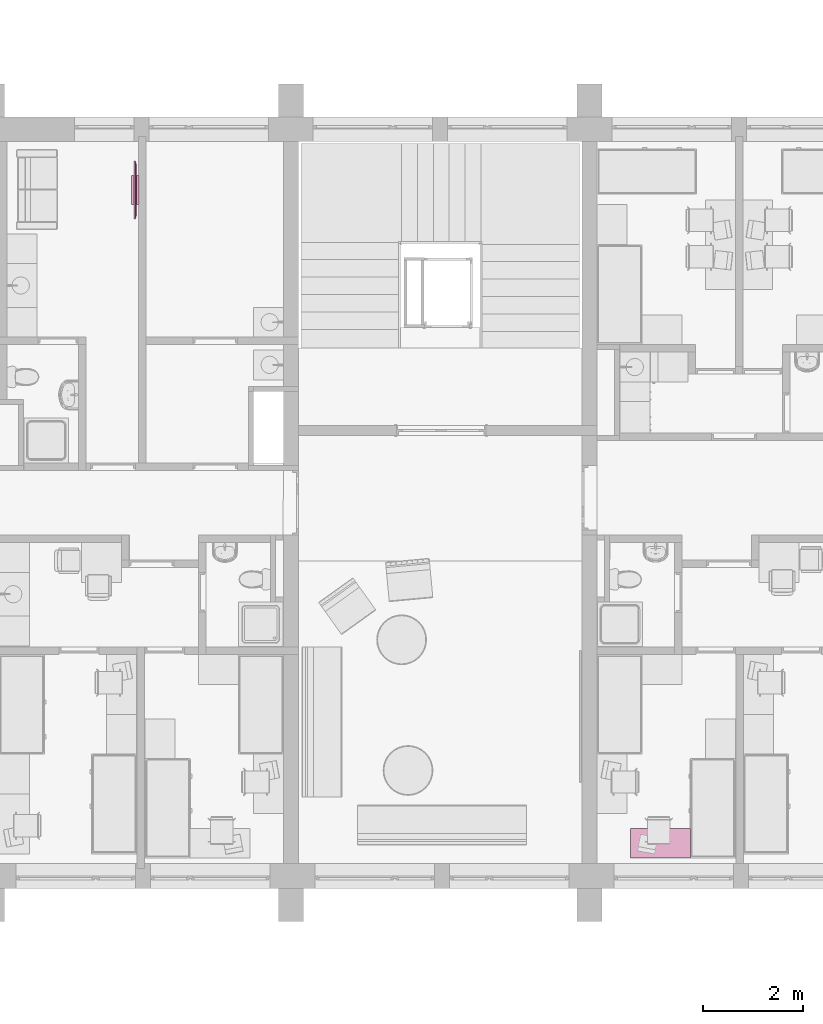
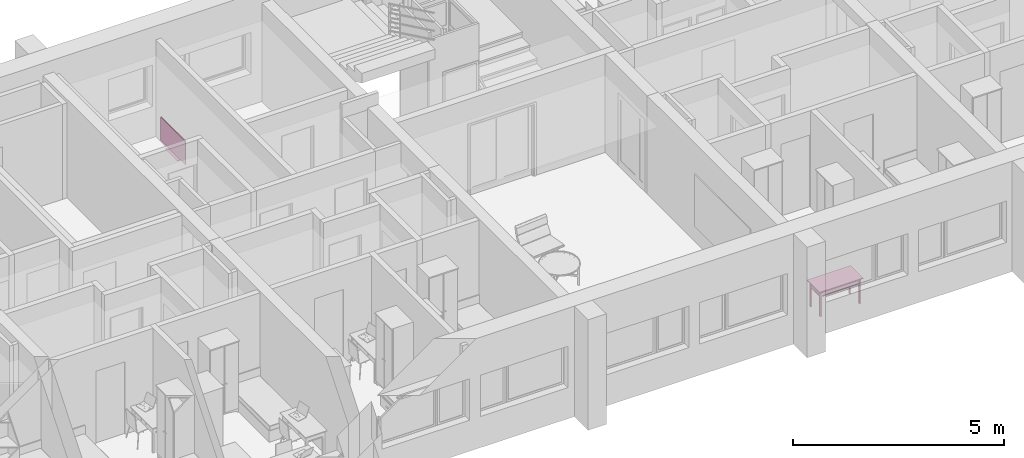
# One storey, part 111 of 165: 2 furnishings.
"""IFC2X3 building model written with IfcOpenShell, lengths in millimetres."""

from ifc_helpers import new_model, entity, si_unit, converted_unit, money_unit, direction, frame, origin_with_axes, place, context, subcontext, project, spatial, faceted_brep, source, transform, mapped, material, material_list, type_object, element, save


model = new_model("IFC2X3")

# Units and contexts
model_context = context("Model", 3, precision=1e-05, world=origin_with_axes(), true_north=direction((0.0, 1.0)))
body_context = subcontext(model_context, "Body", "Model", "MODEL_VIEW")
ifc_project = project(units=[si_unit("LENGTHUNIT", "METRE", prefix="MILLI"), si_unit("AREAUNIT", "SQUARE_METRE"), si_unit("VOLUMEUNIT", "CUBIC_METRE"), converted_unit("PLANEANGLEUNIT", "DEGREE", entity("IfcPlaneAngleMeasure", 0.0174532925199), si_unit("PLANEANGLEUNIT", "RADIAN"), dimensions=[0, 0, 0, 0, 0, 0, 0]), si_unit("SOLIDANGLEUNIT", "STERADIAN"), money_unit("USD"), converted_unit("TIMEUNIT", "Year", entity("IfcTimeMeasure", 31556926.0), si_unit("TIMEUNIT", "SECOND"), dimensions=[0, 0, 0, 0, 0, 0, 0]), si_unit("MASSUNIT", "GRAM"), si_unit("THERMODYNAMICTEMPERATUREUNIT", "DEGREE_CELSIUS"), si_unit("LUMINOUSINTENSITYUNIT", "LUMEN")], contexts=[model_context])

# Site, building, storey
site_placement = place(None, origin_with_axes())
site = spatial("IfcSite", under=ifc_project, at=site_placement, Name="Site", CompositionType="ELEMENT")
building_placement = place(site_placement, origin_with_axes())
building = spatial("IfcBuilding", under=site, at=building_placement, Name="Building", CompositionType="ELEMENT")
storey_placement = place(building_placement, frame((0.0, 0.0, 6300.0), z_axis=(0.0, 0.0, 1.0), x_axis=(1.0, 0.0, 0.0)))
storey = spatial("IfcBuildingStorey", under=building, at=storey_placement, Name="4KORRUS", CompositionType="ELEMENT", Elevation=6300.0)

# Furnishings
ifc_material = material(Name="Background")
ifc_material_list = material_list([ifc_material])
furnishing_element_type_1 = type_object("IfcFurnishingElementType", Name="Rectangular Table 01 19")
shared_shape_1 = source(origin_with_axes(), body_context, "Body", "Brep", [
    faceted_brep([(-90.0, 40.0, 0.0), (-90.0, 90.0, 0.0), (-40.0, 90.0, 0.0), (-40.0, 40.0, 0.0), (-90.0, 40.0, 725.0), (-90.0, 90.0, 725.0), (-40.0, 90.0, 725.0), (-40.0, 40.0, 725.0)], [[[0, 1, 2, 3]], [[0, 4, 5, 1]], [[1, 5, 6, 2]], [[2, 6, 7, 3]], [[3, 7, 4, 0]], [[7, 6, 5, 4]]]),
    faceted_brep([(-1160.0, 40.0, 0.0), (-1160.0, 90.0, 0.0), (-1110.0, 90.0, 0.0), (-1110.0, 40.0, 0.0), (-1160.0, 40.0, 725.0), (-1160.0, 90.0, 725.0), (-1110.0, 90.0, 725.0), (-1110.0, 40.0, 725.0)], [[[0, 1, 2, 3]], [[0, 4, 5, 1]], [[1, 5, 6, 2]], [[2, 6, 7, 3]], [[3, 7, 4, 0]], [[7, 6, 5, 4]]]),
    faceted_brep([(-90.0, 510.0, 0.0), (-90.0, 560.0, 0.0), (-40.0, 560.0, 0.0), (-40.0, 510.0, 0.0), (-90.0, 510.0, 725.0), (-90.0, 560.0, 725.0), (-40.0, 560.0, 725.0), (-40.0, 510.0, 725.0)], [[[0, 1, 2, 3]], [[0, 4, 5, 1]], [[1, 5, 6, 2]], [[2, 6, 7, 3]], [[3, 7, 4, 0]], [[7, 6, 5, 4]]]),
    faceted_brep([(-1160.0, 510.0, 0.0), (-1160.0, 560.0, 0.0), (-1110.0, 560.0, 0.0), (-1110.0, 510.0, 0.0), (-1160.0, 510.0, 725.0), (-1160.0, 560.0, 725.0), (-1110.0, 560.0, 725.0), (-1110.0, 510.0, 725.0)], [[[0, 1, 2, 3]], [[0, 4, 5, 1]], [[1, 5, 6, 2]], [[2, 6, 7, 3]], [[3, 7, 4, 0]], [[7, 6, 5, 4]]]),
    faceted_brep([(-1160.0, 40.0, 565.0), (-1160.0, 560.0, 565.0), (-40.0, 560.0, 565.0), (-40.0, 40.0, 565.0), (-1160.0, 40.0, 585.0), (-1160.0, 560.0, 585.0), (-40.0, 560.0, 585.0), (-40.0, 40.0, 585.0)], [[[0, 1, 2, 3]], [[0, 4, 5, 1]], [[1, 5, 6, 2]], [[2, 6, 7, 3]], [[3, 7, 4, 0]], [[7, 6, 5, 4]]]),
    faceted_brep([(-1110.0, 52.5, 585.0), (-1110.0, 77.5, 585.0), (-90.0, 77.5, 585.0), (-90.0, 52.5, 585.0), (-1110.0, 52.5, 745.0), (-1110.0, 77.5, 745.0), (-90.0, 77.5, 745.0), (-90.0, 52.5, 745.0)], [[[0, 1, 2, 3]], [[0, 4, 5, 1]], [[1, 5, 6, 2]], [[2, 6, 7, 3]], [[3, 7, 4, 0]], [[7, 6, 5, 4]]]),
    faceted_brep([(-77.5, 90.0, 585.0), (-77.5, 510.0, 585.0), (-52.5, 510.0, 585.0), (-52.5, 90.0, 585.0), (-77.5, 90.0, 745.0), (-77.5, 510.0, 745.0), (-52.5, 510.0, 745.0), (-52.5, 90.0, 745.0)], [[[0, 1, 2, 3]], [[0, 4, 5, 1]], [[1, 5, 6, 2]], [[2, 6, 7, 3]], [[3, 7, 4, 0]], [[7, 6, 5, 4]]]),
    faceted_brep([(-90.0, 547.5, 585.0), (-90.0, 522.5, 585.0), (-1110.0, 522.5, 585.0), (-1110.0, 547.5, 585.0), (-90.0, 547.5, 745.0), (-90.0, 522.5, 745.0), (-1110.0, 522.5, 745.0), (-1110.0, 547.5, 745.0)], [[[0, 1, 2, 3]], [[0, 4, 5, 1]], [[1, 5, 6, 2]], [[2, 6, 7, 3]], [[3, 7, 4, 0]], [[7, 6, 5, 4]]]),
    faceted_brep([(-1122.5, 510.0, 585.0), (-1122.5, 90.0, 585.0), (-1147.5, 90.0, 585.0), (-1147.5, 510.0, 585.0), (-1122.5, 510.0, 745.0), (-1122.5, 90.0, 745.0), (-1147.5, 90.0, 745.0), (-1147.5, 510.0, 745.0)], [[[0, 1, 2, 3]], [[0, 4, 5, 1]], [[1, 5, 6, 2]], [[2, 6, 7, 3]], [[3, 7, 4, 0]], [[7, 6, 5, 4]]]),
    faceted_brep([(-597.5, 40.0, 585.0), (-597.5, 60.0, 585.0), (-95.0, 60.0, 585.0), (-95.0, 40.0, 585.0), (-597.5, 40.0, 745.0), (-597.5, 60.0, 745.0), (-95.0, 60.0, 745.0), (-95.0, 40.0, 745.0)], [[[0, 1, 2, 3]], [[0, 4, 5, 1]], [[1, 5, 6, 2]], [[2, 6, 7, 3]], [[3, 7, 4, 0]], [[7, 6, 5, 4]]]),
    faceted_brep([(-1105.0, 40.0, 585.0), (-1105.0, 60.0, 585.0), (-602.5, 60.0, 585.0), (-602.5, 40.0, 585.0), (-1105.0, 40.0, 745.0), (-1105.0, 60.0, 745.0), (-602.5, 60.0, 745.0), (-602.5, 40.0, 745.0)], [[[0, 1, 2, 3]], [[0, 4, 5, 1]], [[1, 5, 6, 2]], [[2, 6, 7, 3]], [[3, 7, 4, 0]], [[7, 6, 5, 4]]]),
    faceted_brep([(-354.91, 40.0, 660.0), (-356.25, 40.0, 665.0), (-354.91, 40.0, 670.0), (-351.25, 40.0, 673.66), (-346.25, 40.0, 675.0), (-341.25, 40.0, 673.66), (-337.59, 40.0, 670.0), (-336.25, 40.0, 665.0), (-337.59, 40.0, 660.0), (-341.25, 40.0, 656.34), (-346.25, 40.0, 655.0), (-351.25, 40.0, 656.34), (-354.91, 25.0, 660.0), (-356.25, 25.0, 665.0), (-354.91, 25.0, 670.0), (-351.25, 25.0, 673.66), (-346.25, 25.0, 675.0), (-341.25, 25.0, 673.66), (-337.59, 25.0, 670.0), (-336.25, 25.0, 665.0), (-337.59, 25.0, 660.0), (-341.25, 25.0, 656.34), (-346.25, 25.0, 655.0), (-351.25, 25.0, 656.34)], [[[0, 1, 2, 3, 4, 5, 6, 7, 8, 9, 10, 11]], [[0, 12, 13, 1]], [[1, 13, 14, 2]], [[2, 14, 15, 3]], [[3, 15, 16, 4]], [[4, 16, 17, 5]], [[5, 17, 18, 6]], [[6, 18, 19, 7]], [[7, 19, 20, 8]], [[8, 20, 21, 9]], [[9, 21, 22, 10]], [[10, 22, 23, 11]], [[11, 23, 12, 0]], [[12, 23, 22, 21, 20, 19, 18, 17, 16, 15, 14, 13]]]),
    faceted_brep([(-356.25, 12.01, 665.0), (-354.91, 12.01, 660.0), (-346.25, 10.0, 665.0), (-363.571, 17.5, 665.0), (-361.25, 17.5, 656.34), (-351.25, 12.01, 656.34), (-354.91, 12.01, 670.0), (-366.25, 25.0, 665.0), (-363.571, 25.0, 655.0), (-354.91, 17.5, 650.0), (-361.25, 17.5, 673.66), (-346.25, 12.01, 655.0), (-351.25, 12.01, 673.66), (-363.571, 25.0, 675.0), (-356.25, 25.0, 682.321), (-346.25, 25.0, 685.0), (-336.25, 25.0, 682.321), (-328.929, 25.0, 675.0), (-326.25, 25.0, 665.0), (-328.929, 25.0, 655.0), (-336.25, 25.0, 647.679), (-346.25, 25.0, 645.0), (-356.25, 25.0, 647.679), (-346.25, 17.5, 647.679), (-354.91, 17.5, 680.0), (-341.25, 12.01, 656.34), (-346.25, 12.01, 675.0), (-346.25, 17.5, 682.321), (-337.59, 17.5, 680.0), (-331.25, 17.5, 673.66), (-328.929, 17.5, 665.0), (-331.25, 17.5, 656.34), (-337.59, 17.5, 650.0), (-337.59, 12.01, 660.0), (-341.25, 12.01, 673.66), (-337.59, 12.01, 670.0), (-336.25, 12.01, 665.0)], [[[0, 1, 2]], [[3, 4, 1, 0]], [[1, 5, 2]], [[6, 0, 2]], [[7, 8, 4, 3]], [[4, 9, 5, 1]], [[10, 3, 0, 6]], [[5, 11, 2]], [[12, 6, 2]], [[8, 7, 13, 14, 15, 16, 17, 18, 19, 20, 21, 22]], [[8, 22, 9, 4]], [[13, 7, 3, 10]], [[9, 23, 11, 5]], [[24, 10, 6, 12]], [[11, 25, 2]], [[26, 12, 2]], [[14, 13, 10, 24]], [[15, 14, 24, 27]], [[16, 15, 27, 28]], [[17, 16, 28, 29]], [[18, 17, 29, 30]], [[19, 18, 30, 31]], [[20, 19, 31, 32]], [[21, 20, 32, 23]], [[22, 21, 23, 9]], [[23, 32, 25, 11]], [[27, 24, 12, 26]], [[25, 33, 2]], [[34, 26, 2]], [[28, 27, 26, 34]], [[29, 28, 34, 35]], [[30, 29, 35, 36]], [[31, 30, 36, 33]], [[32, 31, 33, 25]], [[33, 36, 2]], [[35, 34, 2]], [[36, 35, 2]]]),
    faceted_brep([(-862.41, 40.0, 660.0), (-863.75, 40.0, 665.0), (-862.41, 40.0, 670.0), (-858.75, 40.0, 673.66), (-853.75, 40.0, 675.0), (-848.75, 40.0, 673.66), (-845.09, 40.0, 670.0), (-843.75, 40.0, 665.0), (-845.09, 40.0, 660.0), (-848.75, 40.0, 656.34), (-853.75, 40.0, 655.0), (-858.75, 40.0, 656.34), (-862.41, 25.0, 660.0), (-863.75, 25.0, 665.0), (-862.41, 25.0, 670.0), (-858.75, 25.0, 673.66), (-853.75, 25.0, 675.0), (-848.75, 25.0, 673.66), (-845.09, 25.0, 670.0), (-843.75, 25.0, 665.0), (-845.09, 25.0, 660.0), (-848.75, 25.0, 656.34), (-853.75, 25.0, 655.0), (-858.75, 25.0, 656.34)], [[[0, 1, 2, 3, 4, 5, 6, 7, 8, 9, 10, 11]], [[0, 12, 13, 1]], [[1, 13, 14, 2]], [[2, 14, 15, 3]], [[3, 15, 16, 4]], [[4, 16, 17, 5]], [[5, 17, 18, 6]], [[6, 18, 19, 7]], [[7, 19, 20, 8]], [[8, 20, 21, 9]], [[9, 21, 22, 10]], [[10, 22, 23, 11]], [[11, 23, 12, 0]], [[12, 23, 22, 21, 20, 19, 18, 17, 16, 15, 14, 13]]]),
    faceted_brep([(-863.75, 12.01, 665.0), (-862.41, 12.01, 660.0), (-853.75, 10.0, 665.0), (-871.071, 17.5, 665.0), (-868.75, 17.5, 656.34), (-858.75, 12.01, 656.34), (-862.41, 12.01, 670.0), (-873.75, 25.0, 665.0), (-871.071, 25.0, 655.0), (-862.41, 17.5, 650.0), (-868.75, 17.5, 673.66), (-853.75, 12.01, 655.0), (-858.75, 12.01, 673.66), (-871.071, 25.0, 675.0), (-863.75, 25.0, 682.321), (-853.75, 25.0, 685.0), (-843.75, 25.0, 682.321), (-836.429, 25.0, 675.0), (-833.75, 25.0, 665.0), (-836.429, 25.0, 655.0), (-843.75, 25.0, 647.679), (-853.75, 25.0, 645.0), (-863.75, 25.0, 647.679), (-853.75, 17.5, 647.679), (-862.41, 17.5, 680.0), (-848.75, 12.01, 656.34), (-853.75, 12.01, 675.0), (-853.75, 17.5, 682.321), (-845.09, 17.5, 680.0), (-838.75, 17.5, 673.66), (-836.429, 17.5, 665.0), (-838.75, 17.5, 656.34), (-845.09, 17.5, 650.0), (-845.09, 12.01, 660.0), (-848.75, 12.01, 673.66), (-845.09, 12.01, 670.0), (-843.75, 12.01, 665.0)], [[[0, 1, 2]], [[3, 4, 1, 0]], [[1, 5, 2]], [[6, 0, 2]], [[7, 8, 4, 3]], [[4, 9, 5, 1]], [[10, 3, 0, 6]], [[5, 11, 2]], [[12, 6, 2]], [[8, 7, 13, 14, 15, 16, 17, 18, 19, 20, 21, 22]], [[8, 22, 9, 4]], [[13, 7, 3, 10]], [[9, 23, 11, 5]], [[24, 10, 6, 12]], [[11, 25, 2]], [[26, 12, 2]], [[14, 13, 10, 24]], [[15, 14, 24, 27]], [[16, 15, 27, 28]], [[17, 16, 28, 29]], [[18, 17, 29, 30]], [[19, 18, 30, 31]], [[20, 19, 31, 32]], [[21, 20, 32, 23]], [[22, 21, 23, 9]], [[23, 32, 25, 11]], [[27, 24, 12, 26]], [[25, 33, 2]], [[34, 26, 2]], [[28, 27, 26, 34]], [[29, 28, 34, 35]], [[30, 29, 35, 36]], [[31, 30, 36, 33]], [[32, 31, 33, 25]], [[33, 36, 2]], [[35, 34, 2]], [[36, 35, 2]]]),
    faceted_brep([(-1200.0, 0.0, 725.0), (-1200.0, 600.0, 725.0), (0.0, 600.0, 725.0), (0.0, 0.0, 725.0), (-1200.0, 0.0, 750.0), (-1200.0, 600.0, 750.0), (0.0, 600.0, 750.0), (0.0, 0.0, 750.0)], [[[0, 1, 2, 3]], [[0, 4, 5, 1]], [[1, 5, 6, 2]], [[2, 6, 7, 3]], [[3, 7, 4, 0]], [[7, 6, 5, 4]]]),
])
furnishing_1_placement = place(storey_placement, frame((-5315.29670331, -18929.2398994, 0.0), z_axis=(0.0, 0.0, 1.0), x_axis=(-1.0, 0.0, 0.0)))
element("IfcFurnishingElement", 1, at=furnishing_1_placement, inside=storey, type_object=furnishing_element_type_1, material=ifc_material_list, Name="FU - 011", context=body_context, shape_type="MappedRepresentation", body=[
    mapped(shared_shape_1, transform((0.0, 0.0, 0.0))),
])
furnishing_element_type_2 = type_object("IfcFurnishingElementType", Name="Flat Panel TV 19")
shared_shape_2 = source(origin_with_axes(), body_context, "Body", "Brep", [
    faceted_brep([(-293.262, 98.316, 0.0), (-879.786, 98.316, 0.0), (-879.786, 98.316, 10.0), (-293.262, 98.316, 10.0), (-293.262, -48.316, 0.0), (-879.786, -48.316, 0.0), (-879.786, -48.316, 10.0), (-293.262, -48.316, 10.0)], [[[0, 1, 2, 3]], [[0, 4, 5, 1]], [[1, 5, 6, 2]], [[3, 2, 6, 7]], [[4, 0, 3, 7]], [[5, 4, 7, 6]]]),
    faceted_brep([(-579.077, 27.679, 66.0), (-576.949, 29.465, 66.0), (-574.778, 33.225, 66.0), (-574.024, 37.5, 66.0), (-574.778, 41.775, 66.0), (-576.949, 45.535, 66.0), (-580.274, 48.325, 66.0), (-584.353, 49.81, 66.0), (-588.695, 49.81, 66.0), (-592.774, 48.325, 66.0), (-596.1, 45.535, 66.0), (-598.27, 41.775, 66.0), (-599.024, 37.5, 66.0), (-598.27, 33.225, 66.0), (-596.1, 29.465, 66.0), (-593.972, 27.679, 66.0), (-580.274, 26.675, 62.25), (-580.274, 26.675, 10.0), (-576.949, 29.465, 10.0), (-574.778, 33.225, 10.0), (-574.024, 37.5, 10.0), (-574.778, 41.775, 10.0), (-576.949, 45.535, 10.0), (-580.274, 48.325, 10.0), (-584.353, 49.81, 10.0), (-588.695, 49.81, 10.0), (-592.774, 48.325, 10.0), (-596.1, 45.535, 10.0), (-598.27, 41.775, 10.0), (-599.024, 37.5, 10.0), (-598.27, 33.225, 10.0), (-596.1, 29.465, 10.0), (-592.774, 26.675, 10.0), (-592.774, 26.675, 62.25), (-588.695, 25.19, 56.709), (-584.353, 25.19, 56.709), (-584.353, 25.19, 10.0), (-588.695, 25.19, 10.0)], [[[0, 1, 2, 3, 4, 5, 6, 7, 8, 9, 10, 11, 12, 13, 14, 15]], [[16, 17, 18, 1, 0]], [[2, 1, 18, 19]], [[3, 2, 19, 20]], [[4, 3, 20, 21]], [[5, 4, 21, 22]], [[6, 5, 22, 23]], [[7, 6, 23, 24]], [[8, 7, 24, 25]], [[9, 8, 25, 26]], [[10, 9, 26, 27]], [[11, 10, 27, 28]], [[12, 11, 28, 29]], [[13, 12, 29, 30]], [[14, 13, 30, 31]], [[15, 14, 31, 32, 33]], [[33, 34, 35, 16, 0, 15]], [[35, 36, 17, 16]], [[27, 26, 25, 24, 23, 22, 21, 20, 19, 18, 17, 36, 37, 32, 31, 30, 29, 28]], [[33, 32, 37, 34]], [[34, 37, 36, 35]]]),
    faceted_brep([(-561.524, 34.378, 91.0), (-561.524, 50.0, 91.0), (-611.524, 50.0, 91.0), (-611.524, 34.378, 91.0), (-561.524, 27.679, 66.0), (-561.524, 50.0, 66.0), (-611.524, 50.0, 66.0), (-611.524, 27.679, 66.0)], [[[0, 1, 2, 3]], [[4, 5, 1, 0]], [[2, 1, 5, 6]], [[3, 2, 6, 7]], [[7, 4, 0, 3]], [[7, 6, 5, 4]]]),
    faceted_brep([(-1153.048, 0.0, 76.0), (-1153.048, 0.0, 713.34), (-1153.048, 1.0, 713.34), (-1153.048, 1.0, 76.0), (-20.0, 0.0, 76.0), (-20.0, 0.0, 713.34), (-20.0, 1.0, 713.34), (-20.0, 1.0, 76.0)], [[[0, 1, 2, 3]], [[0, 4, 5, 1]], [[1, 5, 6, 2]], [[3, 2, 6, 7]], [[4, 0, 3, 7]], [[5, 4, 7, 6]]]),
    faceted_brep([(0.0, 0.0, 733.34), (-1173.048, 0.0, 733.34), (-1173.048, 0.0, 56.0), (0.0, 0.0, 56.0), (-20.0, 0.0, 76.0), (-1153.048, 0.0, 76.0), (-1153.048, 0.0, 713.34), (-20.0, 0.0, 713.34), (0.0, 25.0, 733.34), (-1173.048, 25.0, 733.34), (-1173.048, 25.0, 56.0), (0.0, 25.0, 56.0), (-20.0, 1.0, 76.0), (-1153.048, 1.0, 76.0), (-1153.048, 1.0, 713.34), (-20.0, 1.0, 713.34), (-93.301, 50.0, 640.038), (-1079.747, 50.0, 640.038), (-1079.747, 50.0, 149.301), (-93.301, 50.0, 149.301)], [[[0, 1, 2, 3], [4, 5, 6, 7]], [[8, 9, 1, 0]], [[9, 10, 2, 1]], [[10, 11, 3, 2]], [[11, 8, 0, 3]], [[4, 12, 13, 5]], [[5, 13, 14, 6]], [[6, 14, 15, 7]], [[7, 15, 12, 4]], [[16, 17, 9, 8]], [[17, 18, 10, 9]], [[18, 19, 11, 10]], [[19, 16, 8, 11]], [[13, 12, 15, 14]], [[18, 17, 16, 19]]]),
    faceted_brep([(-586.524, -0.8, 61.0), (-598.255, -0.8, 66.0), (-598.255, 0.0, 66.0), (-586.524, 0.0, 61.0), (-574.794, -0.8, 66.0), (-469.219, -0.8, 71.0), (-703.829, -0.8, 71.0), (-703.829, 0.0, 71.0), (-469.219, 0.0, 71.0), (-574.794, 0.0, 66.0)], [[[0, 1, 2, 3]], [[0, 4, 5, 6, 1]], [[1, 6, 7, 2]], [[3, 2, 7, 8, 9]], [[4, 0, 3, 9]], [[5, 4, 9, 8]], [[6, 5, 8, 7]]]),
    faceted_brep([(-156.406, 10.0, 733.34), (-78.203, 10.0, 733.34), (-78.203, 10.0, 734.94), (-156.406, 10.0, 734.94), (-156.406, 16.25, 733.34), (-78.203, 16.25, 733.34), (-78.203, 16.25, 734.94), (-156.406, 16.25, 734.94)], [[[0, 1, 2, 3]], [[1, 0, 4, 5]], [[2, 1, 5, 6]], [[3, 2, 6, 7]], [[0, 3, 7, 4]], [[5, 4, 7, 6]]]),
    faceted_brep([(-240.196, 10.0, 733.34), (-161.992, 10.0, 733.34), (-161.992, 10.0, 734.94), (-240.196, 10.0, 734.94), (-240.196, 16.25, 733.34), (-161.992, 16.25, 733.34), (-161.992, 16.25, 734.94), (-240.196, 16.25, 734.94)], [[[0, 1, 2, 3]], [[1, 0, 4, 5]], [[2, 1, 5, 6]], [[3, 2, 6, 7]], [[0, 3, 7, 4]], [[5, 4, 7, 6]]]),
    faceted_brep([(-284.883, 10.0, 733.34), (-245.782, 10.0, 733.34), (-245.782, 10.0, 734.94), (-284.883, 10.0, 734.94), (-284.883, 16.25, 733.34), (-245.782, 16.25, 733.34), (-245.782, 16.25, 734.94), (-284.883, 16.25, 734.94)], [[[0, 1, 2, 3]], [[1, 0, 4, 5]], [[2, 1, 5, 6]], [[3, 2, 6, 7]], [[0, 3, 7, 4]], [[5, 4, 7, 6]]]),
])
furnishing_2_placement = place(storey_placement, frame((-15287.0736677, -6696.67353986, 100.0), z_axis=(0.0, 0.0, 1.0), x_axis=(0.0, -1.0, 0.0)))
element("IfcFurnishingElement", 2, at=furnishing_2_placement, inside=storey, type_object=furnishing_element_type_2, material=ifc_material_list, Name="FU - 005", context=body_context, shape_type="MappedRepresentation", body=[
    mapped(shared_shape_2, transform((0.0, 0.0, 0.0))),
])

save(model, "model.ifc")
